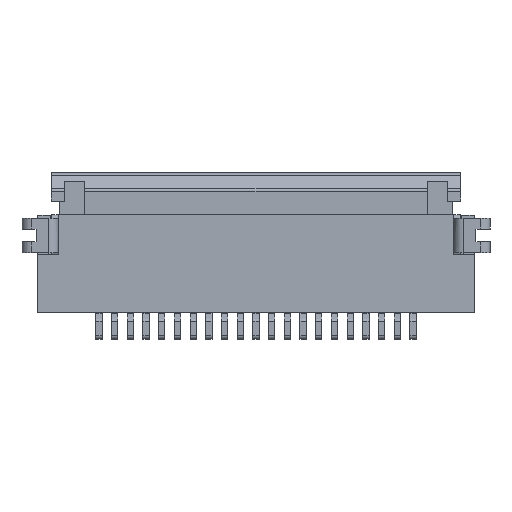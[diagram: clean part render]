
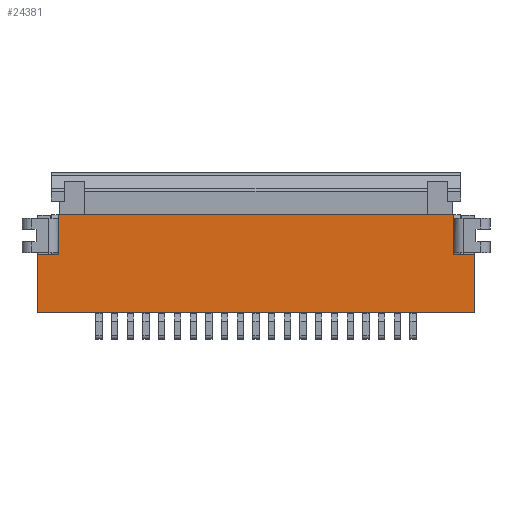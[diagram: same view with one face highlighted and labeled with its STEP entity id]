
A CAD part, top view. The second image highlights one B-rep face of the part: STEP entity #24381.
In plain terms, the highlighted planar face has unit normal (0, 0, 1).
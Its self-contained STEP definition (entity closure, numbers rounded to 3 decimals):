
#5=DIRECTION('',(0.,-1.,0.));
#6=VECTOR('',#5,1.85);
#7=CARTESIAN_POINT('',(-6.95,-1.25,1.55));
#8=LINE('',#7,#6);
#37=DIRECTION('',(-1.,0.,0.));
#38=VECTOR('',#37,0.67);
#39=CARTESIAN_POINT('',(-6.28,-1.25,1.55));
#40=LINE('',#39,#38);
#612=DIRECTION('',(1.,0.,0.));
#613=VECTOR('',#612,13.9);
#614=CARTESIAN_POINT('',(-6.95,-3.1,1.55));
#615=LINE('',#614,#613);
#1000=DIRECTION('',(0.,-1.,0.));
#1001=VECTOR('',#1000,1.25);
#1002=CARTESIAN_POINT('',(-6.28,0.,1.55));
#1003=LINE('',#1002,#1001);
#1004=DIRECTION('',(1.,0.,0.));
#1005=VECTOR('',#1004,12.56);
#1006=CARTESIAN_POINT('',(-6.28,0.,1.55));
#1007=LINE('',#1006,#1005);
#1008=DIRECTION('',(0.,-1.,0.));
#1009=VECTOR('',#1008,1.25);
#1010=CARTESIAN_POINT('',(6.28,0.,1.55));
#1011=LINE('',#1010,#1009);
#4952=DIRECTION('',(0.,-1.,0.));
#4953=VECTOR('',#4952,1.85);
#4954=CARTESIAN_POINT('',(6.95,-1.25,1.55));
#4955=LINE('',#4954,#4953);
#4960=DIRECTION('',(-1.,0.,0.));
#4961=VECTOR('',#4960,0.67);
#4962=CARTESIAN_POINT('',(6.95,-1.25,1.55));
#4963=LINE('',#4962,#4961);
#17813=CARTESIAN_POINT('',(-6.95,-3.1,1.55));
#17815=VERTEX_POINT('',#17813);
#17819=CARTESIAN_POINT('',(6.95,-3.1,1.55));
#17821=VERTEX_POINT('',#17819);
#17825=CARTESIAN_POINT('',(6.95,-1.25,1.55));
#17827=VERTEX_POINT('',#17825);
#17851=CARTESIAN_POINT('',(6.28,0.,1.55));
#17852=CARTESIAN_POINT('',(6.28,-1.25,1.55));
#17853=VERTEX_POINT('',#17851);
#17854=VERTEX_POINT('',#17852);
#18013=CARTESIAN_POINT('',(-6.28,-1.25,1.55));
#18014=VERTEX_POINT('',#18013);
#18069=CARTESIAN_POINT('',(-6.95,-1.25,1.55));
#18071=VERTEX_POINT('',#18069);
#18085=CARTESIAN_POINT('',(-6.28,0.,1.55));
#18086=VERTEX_POINT('',#18085);
#24361=CARTESIAN_POINT('',(-6.95,0.,1.55));
#24362=DIRECTION('',(0.,0.,1.));
#24363=DIRECTION('',(0.,-1.,0.));
#24364=AXIS2_PLACEMENT_3D('',#24361,#24362,#24363);
#24365=PLANE('',#24364);
#24366=ORIENTED_EDGE('',*,*,#23325,.F.);
#24368=ORIENTED_EDGE('',*,*,#24367,.F.);
#24370=ORIENTED_EDGE('',*,*,#24369,.T.);
#24372=ORIENTED_EDGE('',*,*,#24371,.T.);
#24374=ORIENTED_EDGE('',*,*,#24373,.F.);
#24376=ORIENTED_EDGE('',*,*,#24375,.T.);
#24377=ORIENTED_EDGE('',*,*,#24104,.F.);
#24378=ORIENTED_EDGE('',*,*,#23297,.F.);
#24379=EDGE_LOOP('',(#24366,#24368,#24370,#24372,#24374,#24376,#24377,#24378));
#24380=FACE_OUTER_BOUND('',#24379,.F.);
#24381=ADVANCED_FACE('',(#24380),#24365,.T.);
#23297=EDGE_CURVE('',#18071,#17815,#8,.T.);
#23325=EDGE_CURVE('',#18014,#18071,#40,.T.);
#24104=EDGE_CURVE('',#17815,#17821,#615,.T.);
#24367=EDGE_CURVE('',#18086,#18014,#1003,.T.);
#24369=EDGE_CURVE('',#18086,#17853,#1007,.T.);
#24371=EDGE_CURVE('',#17853,#17854,#1011,.T.);
#24373=EDGE_CURVE('',#17827,#17854,#4963,.T.);
#24375=EDGE_CURVE('',#17827,#17821,#4955,.T.);
